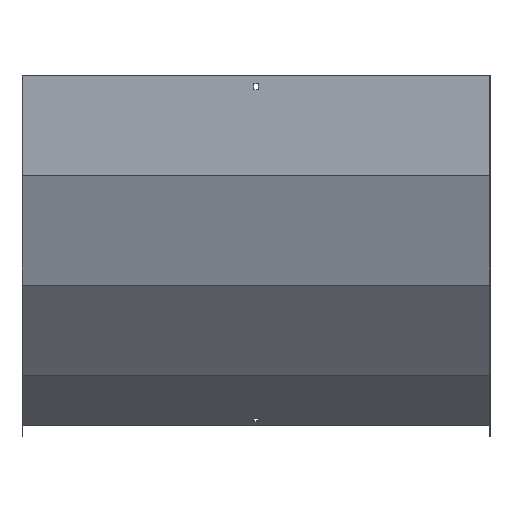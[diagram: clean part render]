
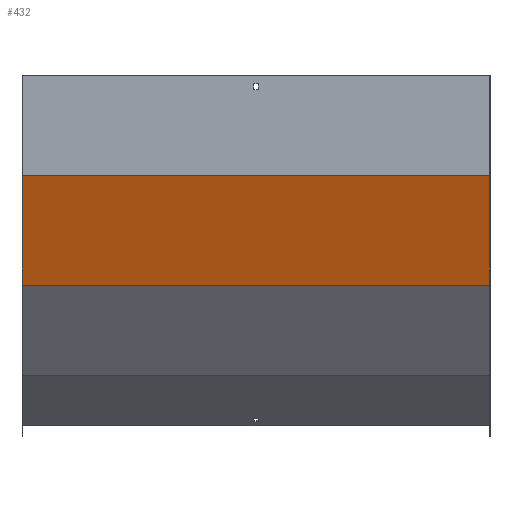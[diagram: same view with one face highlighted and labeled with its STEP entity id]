
A CAD part, front view. The second image highlights one B-rep face of the part: STEP entity #432.
In plain terms, the highlighted planar face has unit normal (0, -0.94, -0.342).
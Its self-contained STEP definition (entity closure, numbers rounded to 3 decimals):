
#7 = ORIENTED_EDGE ( 'NONE', *, *, #748, .T. ) ;
#9 = LINE ( 'NONE', #922, #405 ) ;
#17 = CARTESIAN_POINT ( 'NONE',  ( 350., -49.554, -18.036 ) ) ;
#65 = CARTESIAN_POINT ( 'NONE',  ( 351.5, -1.41, -150.313 ) ) ;
#181 = VERTEX_POINT ( 'NONE', #818 ) ;
#216 = CARTESIAN_POINT ( 'NONE',  ( -350., -49.554, -18.036 ) ) ;
#217 = VECTOR ( 'NONE', #614, 1000. ) ;
#247 = DIRECTION ( 'NONE',  ( -1., 0., 0. ) ) ;
#320 = VECTOR ( 'NONE', #325, 1000. ) ;
#321 = VECTOR ( 'NONE', #736, 1000. ) ;
#325 = DIRECTION ( 'NONE',  ( 0., 0.342, -0.94 ) ) ;
#329 = ORIENTED_EDGE ( 'NONE', *, *, #918, .F. ) ;
#380 = DIRECTION ( 'NONE',  ( 0., -0.342, 0.94 ) ) ;
#405 = VECTOR ( 'NONE', #247, 1000. ) ;
#410 = LINE ( 'NONE', #552, #321 ) ;
#412 = VERTEX_POINT ( 'NONE', #755 ) ;
#432 = ADVANCED_FACE ( 'NONE', ( #830 ), #765, .F. ) ;
#437 = ORIENTED_EDGE ( 'NONE', *, *, #983, .T. ) ;
#491 = VERTEX_POINT ( 'NONE', #912 ) ;
#552 = CARTESIAN_POINT ( 'NONE',  ( 351.5, -1.5, -150.064 ) ) ;
#614 = DIRECTION ( 'NONE',  ( 0., 0.342, -0.94 ) ) ;
#633 = LINE ( 'NONE', #17, #320 ) ;
#641 = VERTEX_POINT ( 'NONE', #848 ) ;
#651 = EDGE_LOOP ( 'NONE', ( #7, #807, #329, #437 ) ) ;
#681 = LINE ( 'NONE', #216, #217 ) ;
#685 = DIRECTION ( 'NONE',  ( 0., 0.94, 0.342 ) ) ;
#736 = DIRECTION ( 'NONE',  ( -1., 0., 0. ) ) ;
#748 = EDGE_CURVE ( 'NONE', #181, #641, #681, .T. ) ;
#755 = CARTESIAN_POINT ( 'NONE',  ( 350., -1.5, -150.064 ) ) ;
#765 = PLANE ( 'NONE',  #814 ) ;
#807 = ORIENTED_EDGE ( 'NONE', *, *, #945, .F. ) ;
#814 = AXIS2_PLACEMENT_3D ( 'NONE', #65, #685, #380 ) ;
#818 = CARTESIAN_POINT ( 'NONE',  ( -350., -1.5, -150.064 ) ) ;
#830 = FACE_OUTER_BOUND ( 'NONE', #651, .T. ) ;
#848 = CARTESIAN_POINT ( 'NONE',  ( -350., 58.842, -315.854 ) ) ;
#912 = CARTESIAN_POINT ( 'NONE',  ( 350., 58.842, -315.854 ) ) ;
#918 = EDGE_CURVE ( 'NONE', #412, #491, #633, .T. ) ;
#922 = CARTESIAN_POINT ( 'NONE',  ( 351.5, 58.842, -315.854 ) ) ;
#945 = EDGE_CURVE ( 'NONE', #491, #641, #9, .T. ) ;
#983 = EDGE_CURVE ( 'NONE', #412, #181, #410, .T. ) ;
